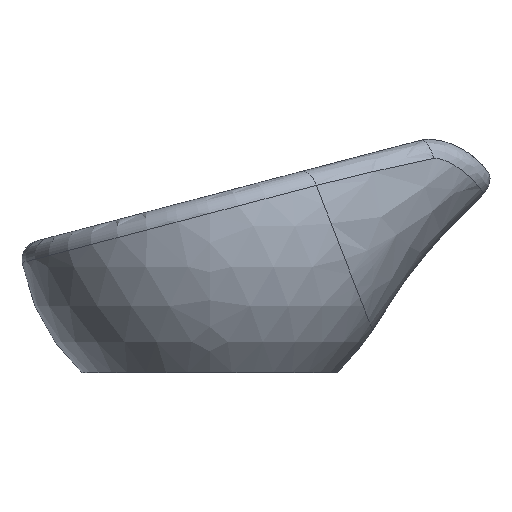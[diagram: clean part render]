
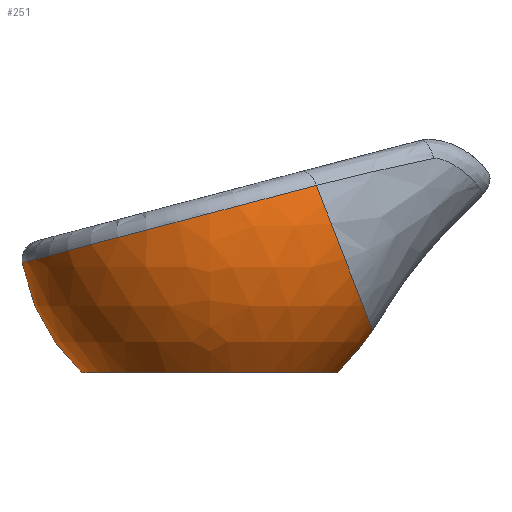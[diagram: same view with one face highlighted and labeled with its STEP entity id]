
A CAD part, left-side view. The second image highlights one B-rep face of the part: STEP entity #251.
In plain terms, the highlighted spherical face has radius 50 mm.
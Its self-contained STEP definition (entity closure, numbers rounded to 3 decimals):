
#19=SPHERICAL_SURFACE('',#288,50.);
#37=FACE_OUTER_BOUND('',#54,.T.);
#54=EDGE_LOOP('',(#219,#220,#221,#222,#223,#224));
#61=CIRCLE('',#273,49.774);
#62=CIRCLE('',#274,49.774);
#72=CIRCLE('',#289,50.);
#73=CIRCLE('',#290,33.63);
#87=B_SPLINE_CURVE_WITH_KNOTS('',3,(#969,#970,#971,#972,#973,#974,#975,
#976,#977,#978,#979,#980,#981,#982,#983,#984,#985,#986,#987,#988,#989,#990,
#991,#992,#993,#994,#995,#996,#997,#998,#999,#1000,#1001,#1002,#1003,#1004,
#1005,#1006,#1007,#1008,#1009,#1010,#1011,#1012,#1013,#1014,#1015,#1016,
#1017,#1018,#1019,#1020,#1021,#1022,#1023,#1024,#1025,#1026,#1027,#1028,
#1029),.UNSPECIFIED.,.F.,.F.,(4,3,3,3,3,3,3,3,3,3,3,3,3,3,3,3,3,3,3,3,4),
(-76.168,-74.25,-70.416,-68.499,
-62.747,-60.83,-60.191,-58.274,
-53.161,-50.605,-49.966,-48.049,
-45.493,-41.658,-40.7,-37.824,
-33.99,-30.155,-28.238,-24.404,
-22.487),.UNSPECIFIED.);
#99=VERTEX_POINT('',#610);
#101=VERTEX_POINT('',#624);
#103=VERTEX_POINT('',#628);
#114=VERTEX_POINT('',#1198);
#126=EDGE_CURVE('',#99,#103,#61,.T.);
#127=EDGE_CURVE('',#103,#101,#62,.T.);
#137=EDGE_CURVE('',#101,#99,#87,.T.);
#150=EDGE_CURVE('',#103,#114,#72,.T.);
#151=EDGE_CURVE('',#114,#114,#73,.T.);
#219=ORIENTED_EDGE('',*,*,#126,.F.);
#220=ORIENTED_EDGE('',*,*,#137,.F.);
#221=ORIENTED_EDGE('',*,*,#127,.F.);
#222=ORIENTED_EDGE('',*,*,#150,.T.);
#223=ORIENTED_EDGE('',*,*,#151,.T.);
#224=ORIENTED_EDGE('',*,*,#150,.F.);
#251=ADVANCED_FACE('',(#37),#19,.T.);
#273=AXIS2_PLACEMENT_3D('',#629,#306,#307);
#274=AXIS2_PLACEMENT_3D('',#630,#308,#309);
#288=AXIS2_PLACEMENT_3D('',#1197,#336,#337);
#289=AXIS2_PLACEMENT_3D('',#1199,#338,#339);
#290=AXIS2_PLACEMENT_3D('',#1200,#340,#341);
#306=DIRECTION('center_axis',(0.,0.254,0.967));
#307=DIRECTION('ref_axis',(0.,0.967,-0.254));
#308=DIRECTION('center_axis',(0.,0.254,0.967));
#309=DIRECTION('ref_axis',(0.,0.967,-0.254));
#336=DIRECTION('center_axis',(0.,0.,1.));
#337=DIRECTION('ref_axis',(1.,0.,0.));
#338=DIRECTION('center_axis',(0.,-1.,0.));
#339=DIRECTION('ref_axis',(-1.,0.,0.));
#340=DIRECTION('center_axis',(0.,0.,1.));
#341=DIRECTION('ref_axis',(0.,1.,0.));
#610=CARTESIAN_POINT('',(39.524,-28.061,12.266));
#624=CARTESIAN_POINT('',(-39.524,-28.061,12.266));
#628=CARTESIAN_POINT('',(-49.759,0.,4.905));
#629=CARTESIAN_POINT('Origin',(0.,1.204,4.589));
#630=CARTESIAN_POINT('Origin',(0.,1.204,4.589));
#969=CARTESIAN_POINT('Ctrl Pts',(-39.524,-28.061,12.266));
#970=CARTESIAN_POINT('Ctrl Pts',(-39.573,-28.605,10.863));
#971=CARTESIAN_POINT('Ctrl Pts',(-39.539,-29.147,9.463));
#972=CARTESIAN_POINT('Ctrl Pts',(-39.416,-29.69,8.063));
#973=CARTESIAN_POINT('Ctrl Pts',(-39.17,-30.777,5.262));
#974=CARTESIAN_POINT('Ctrl Pts',(-38.569,-31.864,2.458));
#975=CARTESIAN_POINT('Ctrl Pts',(-37.648,-32.903,-0.22));
#976=CARTESIAN_POINT('Ctrl Pts',(-37.187,-33.423,-1.559));
#977=CARTESIAN_POINT('Ctrl Pts',(-36.647,-33.93,-2.867));
#978=CARTESIAN_POINT('Ctrl Pts',(-36.025,-34.426,-4.145));
#979=CARTESIAN_POINT('Ctrl Pts',(-34.158,-35.915,-7.98));
#980=CARTESIAN_POINT('Ctrl Pts',(-31.555,-37.301,-11.55));
#981=CARTESIAN_POINT('Ctrl Pts',(-28.414,-38.475,-14.573));
#982=CARTESIAN_POINT('Ctrl Pts',(-27.367,-38.867,-15.581));
#983=CARTESIAN_POINT('Ctrl Pts',(-26.261,-39.235,-16.528));
#984=CARTESIAN_POINT('Ctrl Pts',(-25.094,-39.582,-17.421));
#985=CARTESIAN_POINT('Ctrl Pts',(-24.705,-39.697,-17.719));
#986=CARTESIAN_POINT('Ctrl Pts',(-24.31,-39.811,-18.01));
#987=CARTESIAN_POINT('Ctrl Pts',(-23.908,-39.921,-18.295));
#988=CARTESIAN_POINT('Ctrl Pts',(-22.702,-40.253,-19.149));
#989=CARTESIAN_POINT('Ctrl Pts',(-21.44,-40.56,-19.938));
#990=CARTESIAN_POINT('Ctrl Pts',(-20.138,-40.839,-20.655));
#991=CARTESIAN_POINT('Ctrl Pts',(-16.666,-41.582,-22.569));
#992=CARTESIAN_POINT('Ctrl Pts',(-12.914,-42.128,-23.973));
#993=CARTESIAN_POINT('Ctrl Pts',(-8.985,-42.46,-24.827));
#994=CARTESIAN_POINT('Ctrl Pts',(-7.021,-42.626,-25.253));
#995=CARTESIAN_POINT('Ctrl Pts',(-5.012,-42.739,-25.543));
#996=CARTESIAN_POINT('Ctrl Pts',(-3.006,-42.794,-25.685));
#997=CARTESIAN_POINT('Ctrl Pts',(-2.505,-42.808,-25.72));
#998=CARTESIAN_POINT('Ctrl Pts',(-2.003,-42.818,-25.746));
#999=CARTESIAN_POINT('Ctrl Pts',(-1.502,-42.825,-25.764));
#1000=CARTESIAN_POINT('Ctrl Pts',(0.001,-42.845,
-25.817));
#1001=CARTESIAN_POINT('Ctrl Pts',(1.502,-42.835,-25.792));
#1002=CARTESIAN_POINT('Ctrl Pts',(3.006,-42.794,-25.685));
#1003=CARTESIAN_POINT('Ctrl Pts',(5.011,-42.738,-25.542));
#1004=CARTESIAN_POINT('Ctrl Pts',(7.022,-42.626,-25.253));
#1005=CARTESIAN_POINT('Ctrl Pts',(8.987,-42.46,-24.826));
#1006=CARTESIAN_POINT('Ctrl Pts',(11.934,-42.211,-24.187));
#1007=CARTESIAN_POINT('Ctrl Pts',(14.777,-41.842,-23.237));
#1008=CARTESIAN_POINT('Ctrl Pts',(17.483,-41.359,-21.994));
#1009=CARTESIAN_POINT('Ctrl Pts',(18.159,-41.238,-21.684));
#1010=CARTESIAN_POINT('Ctrl Pts',(18.827,-41.111,-21.355));
#1011=CARTESIAN_POINT('Ctrl Pts',(19.485,-40.976,-21.008));
#1012=CARTESIAN_POINT('Ctrl Pts',(21.458,-40.571,-19.967));
#1013=CARTESIAN_POINT('Ctrl Pts',(23.34,-40.103,-18.762));
#1014=CARTESIAN_POINT('Ctrl Pts',(25.092,-39.583,-17.423));
#1015=CARTESIAN_POINT('Ctrl Pts',(27.427,-38.889,-15.638));
#1016=CARTESIAN_POINT('Ctrl Pts',(29.531,-38.103,-13.615));
#1017=CARTESIAN_POINT('Ctrl Pts',(31.37,-37.235,-11.38));
#1018=CARTESIAN_POINT('Ctrl Pts',(33.209,-36.367,-9.145));
#1019=CARTESIAN_POINT('Ctrl Pts',(34.782,-35.418,-6.699));
#1020=CARTESIAN_POINT('Ctrl Pts',(36.026,-34.425,-4.143));
#1021=CARTESIAN_POINT('Ctrl Pts',(36.648,-33.929,-2.864));
#1022=CARTESIAN_POINT('Ctrl Pts',(37.188,-33.423,-1.559));
#1023=CARTESIAN_POINT('Ctrl Pts',(37.648,-32.903,-0.22));
#1024=CARTESIAN_POINT('Ctrl Pts',(38.568,-31.865,2.456));
#1025=CARTESIAN_POINT('Ctrl Pts',(39.17,-30.776,5.262));
#1026=CARTESIAN_POINT('Ctrl Pts',(39.416,-29.69,8.064));
#1027=CARTESIAN_POINT('Ctrl Pts',(39.539,-29.147,9.464));
#1028=CARTESIAN_POINT('Ctrl Pts',(39.573,-28.605,10.863));
#1029=CARTESIAN_POINT('Ctrl Pts',(39.524,-28.061,12.266));
#1197=CARTESIAN_POINT('Origin',(0.,0.,0.));
#1198=CARTESIAN_POINT('',(-33.63,0.,-37.));
#1199=CARTESIAN_POINT('Origin',(0.,0.,0.));
#1200=CARTESIAN_POINT('Origin',(0.,0.,-37.));
